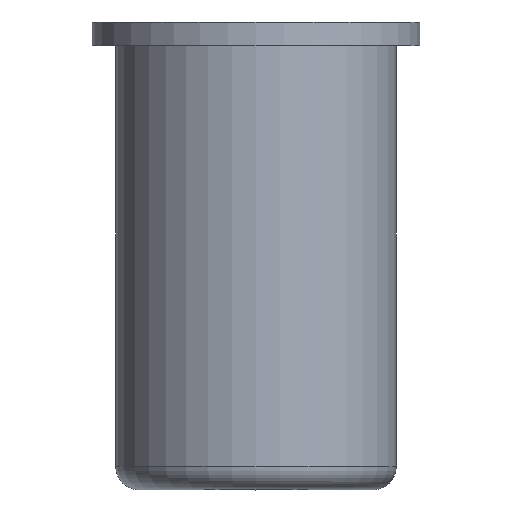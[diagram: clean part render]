
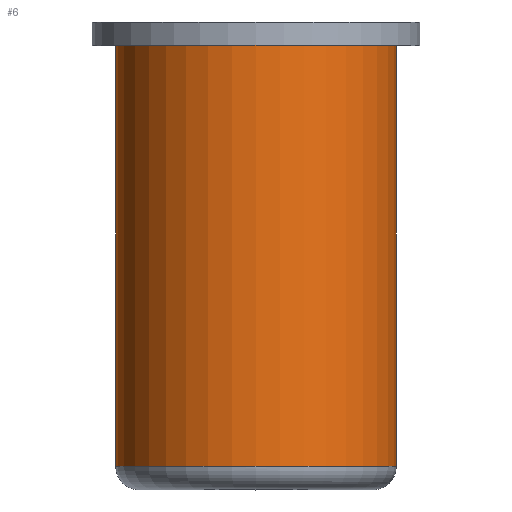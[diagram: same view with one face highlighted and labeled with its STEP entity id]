
A CAD part, top view. The second image highlights one B-rep face of the part: STEP entity #6.
In plain terms, the highlighted cylindrical face has radius 3 mm (diameter 6 mm), a full revolution.
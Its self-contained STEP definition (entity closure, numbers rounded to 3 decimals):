
#2 = CARTESIAN_POINT ( 'NONE',  ( 0., -9.5, 3. ) ) ;
#3 = VERTEX_POINT ( 'NONE', #2 ) ;
#4 = CIRCLE ( 'NONE', #27, 3. ) ;
#6 = ADVANCED_FACE ( 'NONE', ( #90, #59 ), #119, .T. ) ;
#27 = AXIS2_PLACEMENT_3D ( 'NONE', #142, #153, #85 ) ;
#33 = CIRCLE ( 'NONE', #74, 3. ) ;
#34 = CARTESIAN_POINT ( 'NONE',  ( 0., -0.5, 0. ) ) ;
#36 = EDGE_CURVE ( 'NONE', #39, #39, #33, .T. ) ;
#39 = VERTEX_POINT ( 'NONE', #145 ) ;
#48 = DIRECTION ( 'NONE',  ( 0., -1., 0. ) ) ;
#54 = ORIENTED_EDGE ( 'NONE', *, *, #55, .T. ) ;
#55 = EDGE_CURVE ( 'NONE', #3, #3, #4, .T. ) ;
#59 = FACE_OUTER_BOUND ( 'NONE', #112, .T. ) ;
#74 = AXIS2_PLACEMENT_3D ( 'NONE', #34, #115, #159 ) ;
#85 = DIRECTION ( 'NONE',  ( 0., 0., 1. ) ) ;
#88 = DIRECTION ( 'NONE',  ( 0., 0., -1. ) ) ;
#90 = FACE_OUTER_BOUND ( 'NONE', #124, .T. ) ;
#100 = ORIENTED_EDGE ( 'NONE', *, *, #36, .T. ) ;
#110 = AXIS2_PLACEMENT_3D ( 'NONE', #177, #48, #88 ) ;
#112 = EDGE_LOOP ( 'NONE', ( #100 ) ) ;
#115 = DIRECTION ( 'NONE',  ( 0., -1., 0. ) ) ;
#119 = CYLINDRICAL_SURFACE ( 'NONE', #110, 3. ) ;
#124 = EDGE_LOOP ( 'NONE', ( #54 ) ) ;
#142 = CARTESIAN_POINT ( 'NONE',  ( 0., -9.5, 0. ) ) ;
#145 = CARTESIAN_POINT ( 'NONE',  ( 0., -0.5, -3. ) ) ;
#153 = DIRECTION ( 'NONE',  ( 0., 1., 0. ) ) ;
#159 = DIRECTION ( 'NONE',  ( 0., 0., -1. ) ) ;
#177 = CARTESIAN_POINT ( 'NONE',  ( 0., 0., 0. ) ) ;
